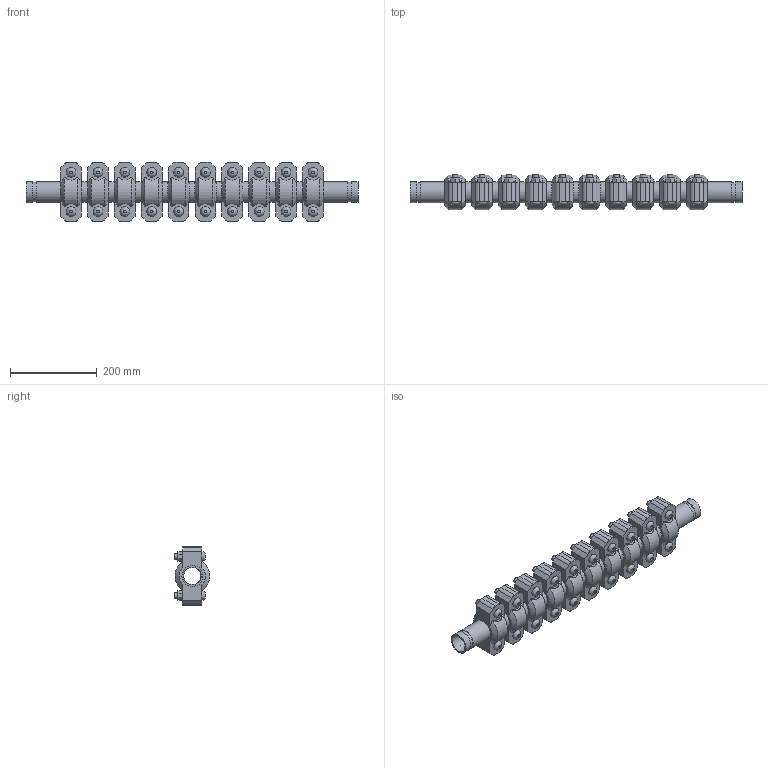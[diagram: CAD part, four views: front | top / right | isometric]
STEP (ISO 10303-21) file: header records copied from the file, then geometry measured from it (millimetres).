
FILE_DESCRIPTION(/* description */ ('VIC EXPANSION JOINT 10 COUPLINGS EXPANDED STYLE 155 (OGS)','CAx-IF Rec.Pracs.---Representation and Presentation of Product Manufacturing Information (PMI)---4.0---2014-10-13'),/* implementation_level */ '2;1');
FILE_NAME(/* name */ 'C:\Users\kkamble\AppData\Roaming\Autodesk\ApplicationPlugins\Victaulic.Temp\A992\Victaulic_IPS_Expansion Joint_Expanded_10 Couplings_Style 155 (OGS)_1.5 (40).stp',/* time_stamp */ '2021-06-26T23:49:22+02:00',/* author */ ('kkamble'),/* organization */ ('Victaulic'),/* preprocessor_version */ 'ST-DEVELOPER v17.2',/* originating_system */ 'Autodesk Inventor 2019',/* authorisation */ '');
FILE_SCHEMA (('AP242_MANAGED_MODEL_BASED_3D_ENGINEERING_MIM_LF { 1 0 10303 442 1 1 4 }'));
Length unit declared in the file: inch
Products named in the file (4): 155-01.5; Nipple-01.5; Nipple-01.5_1; 077-01.5
Assembly tree (21 placements, depth 2):
  155-01.5
    Nipple-01.5  x2
    Nipple-01.5_1  x9
    077-01.5  x10
Bounding box: 765.3 x 81.03 x 136.65 mm (x, y, z)
Volume: 2987538.9 mm3; surface area: 688798.2 mm2
Topology: 21 solids, 41 shells, 742 faces, 1780 edges, 1244 vertices
Faces by surface type: plane 426, cylinder 256, cone 40, bspline 20
Full cylindrical faces by diameter (mm): 12.7 x40, 14.605 x20, 39.37 x10, 40.894 x11, 45.085 x22, 48.26 x53
Entity records: 3097 total; most frequent: CARTESIAN_POINT 613, DIRECTION 505, ORIENTED_EDGE 410, EDGE_CURVE 205, AXIS2_PLACEMENT_3D 204, VERTEX_POINT 146, EDGE_LOOP 111, LINE 97
